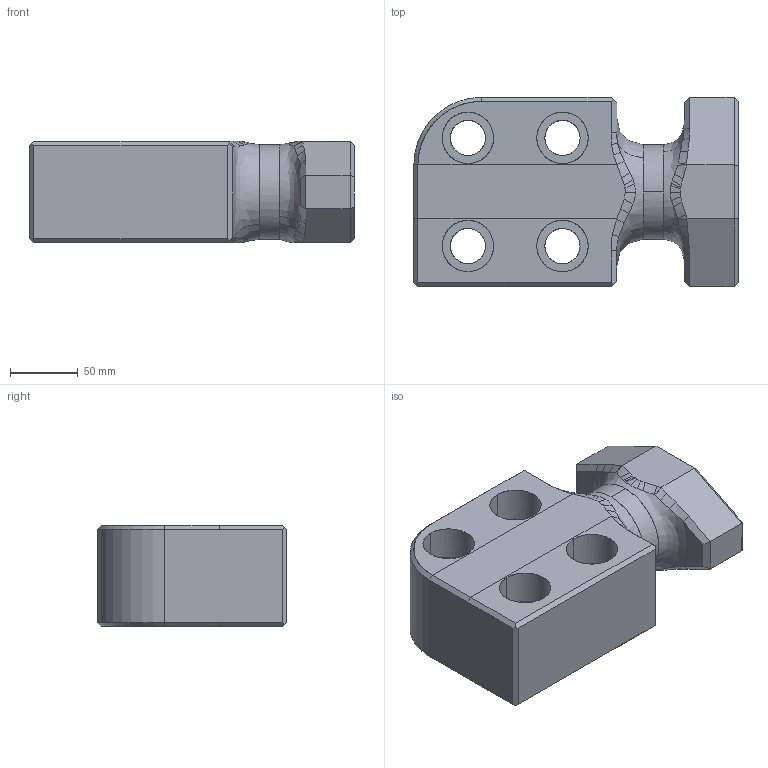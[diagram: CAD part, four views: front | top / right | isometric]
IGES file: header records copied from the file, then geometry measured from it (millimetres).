
Global section: file name: E:\UnigraphicsGraphicData\MISUMI_PRESS-PARTS\IGES\3d_chu70l_03572_r00.igs; native system: NX V5.0; preprocessor: UGS NX IGES V5.0; author: MISUMI; date: 20110105.160244; units: millimetre
Bounding box: 240 x 140 x 75.01 mm (x, y, z)
Surface area: 134676.4 mm2 (no closed solid volume)
Topology: 0 solids, 0 shells, 133 faces, 952 edges, 952 vertices
Faces by surface type: bspline 133
